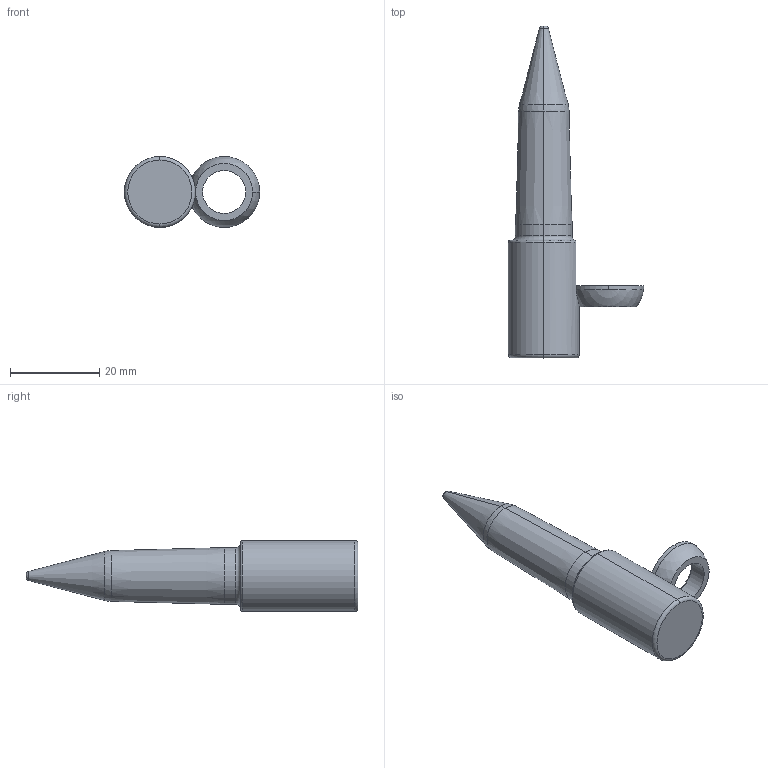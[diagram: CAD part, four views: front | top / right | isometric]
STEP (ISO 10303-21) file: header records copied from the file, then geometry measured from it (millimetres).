
FILE_DESCRIPTION (( 'STEP AP214' ), '1' );
FILE_NAME ('PA-T-.500-.100-1.0-3-A-F1.STEP', '2019-05-08T17:35:00', ( '' ), ( '' ), 'SwSTEP 2.0', 'SolidWorks 2017', '' );
FILE_SCHEMA (( 'AUTOMOTIVE_DESIGN' ));
Length unit declared in the file: inch
Products named in the file (3): SLPilot-PA-T-E_PA-T-.500-.100-1.0-3-A-F1; PA-T-.500-.100-1.0-3-A-F1; SLRadiusWasher_RadiusWasher-E
Assembly tree (2 placements, depth 2):
  PA-T-.500-.100-1.0-3-A-F1
    SLPilot-PA-T-E_PA-T-.500-.100-1.0-3-A-F1
    SLRadiusWasher_RadiusWasher-E
Bounding box: 30.28 x 74.3 x 15.88 mm (x, y, z)
Volume: 9737.1 mm3; surface area: 3604.3 mm2
Topology: 2 solids, 2 shells, 35 faces, 77 edges, 46 vertices
Faces by surface type: torus 11, cylinder 9, cone 6, plane 5, sphere 4
Entity records: 1168 total; most frequent: CARTESIAN_POINT 234, DIRECTION 208, ORIENTED_EDGE 154, AXIS2_PLACEMENT_3D 96, EDGE_CURVE 77, CIRCLE 56, VERTEX_POINT 46, EDGE_LOOP 37
